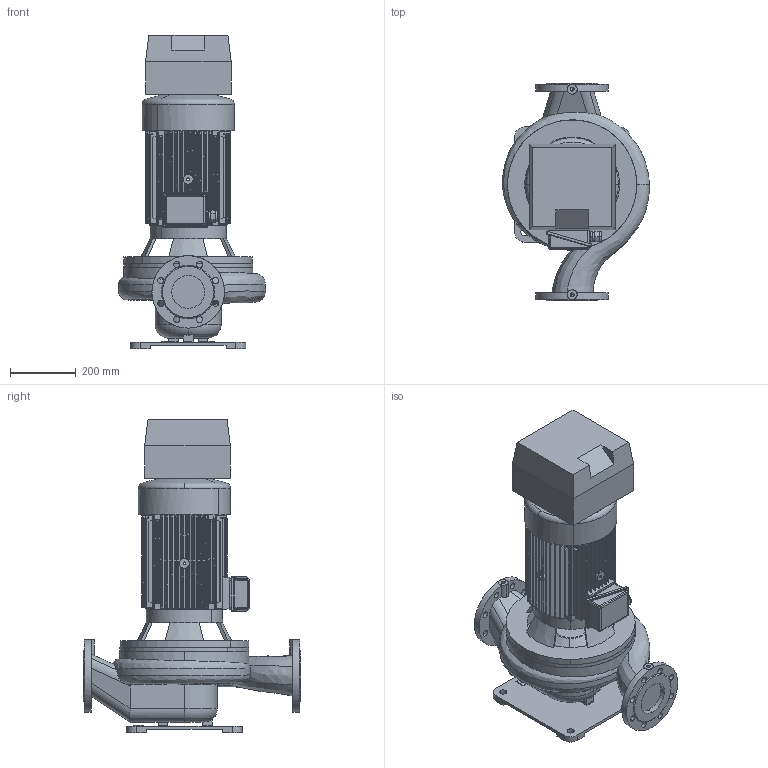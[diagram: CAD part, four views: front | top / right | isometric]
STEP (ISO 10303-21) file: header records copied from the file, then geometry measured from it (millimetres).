
FILE_DESCRIPTION(('STEP AP214'),'1');
FILE_NAME('export.stp','2018-08-08T13:04:46',(' '),(' '),'Spatial InterOp 3D',' ',' ');
FILE_SCHEMA(('AUTOMOTIVE_DESIGN { 1 0 10303 214 1 1 1 1 }'));
Length unit declared in the file: millimetre
Products named in the file (10): W_L100S4NC750KP; V_EKF31OKN132133; V_TLL100SAL1202; V_PPL100S; V_JALKA30940; V_MKP134; TSUOJA_OKN_132_133; KYTKOTELO_OKN_100_133; R201240; NC_Size2
Assembly tree (9 placements, depth 3):
  W_L100S4NC750KP
    V_EKF31OKN132133
    V_TLL100SAL1202
    V_PPL100S
    V_JALKA30940
    V_MKP134
      TSUOJA_OKN_132_133
      KYTKOTELO_OKN_100_133
      R201240
    NC_Size2
Bounding box: 446.61 x 660 x 953 mm (x, y, z)
Volume: 47586853.2 mm3; surface area: 3161635.3 mm2
Topology: 8 solids, 9 shells, 1204 faces, 3350 edges, 2154 vertices
Faces by surface type: cylinder 628, plane 418, cone 100, bspline 26, torus 20, sphere 12
Entity records: 59872 total; most frequent: CARTESIAN_POINT 16378, ORIENTED_EDGE 6608, DIRECTION 6224, EDGE_CURVE 3304, AXIS2_PLACEMENT_3D 2364, VERTEX_POINT 2154, STYLED_ITEM 1859, PRESENTATION_STYLE_ASSIGNMENT 1859
